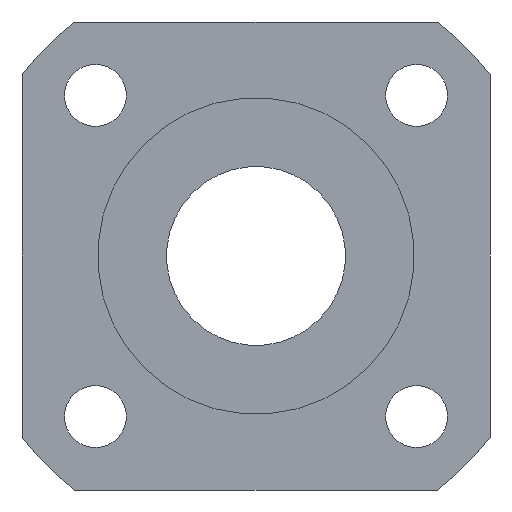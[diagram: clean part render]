
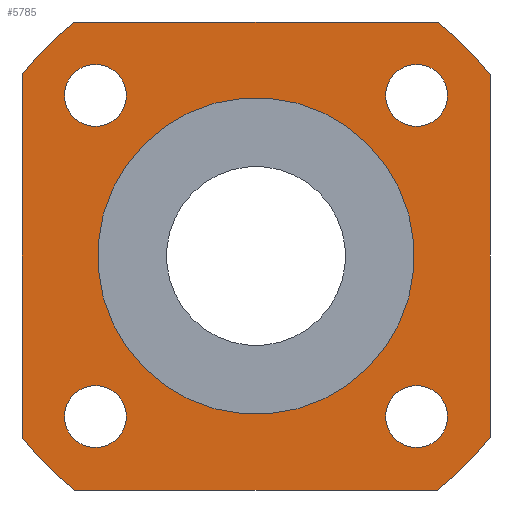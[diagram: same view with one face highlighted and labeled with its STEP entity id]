
A CAD part, left-side view. The second image highlights one B-rep face of the part: STEP entity #5785.
In plain terms, the highlighted planar face has unit normal (-1, 0, 0).
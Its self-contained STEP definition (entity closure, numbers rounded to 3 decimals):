
#109=CIRCLE('',#6137,21.5);
#110=CIRCLE('',#6139,21.5);
#111=CIRCLE('',#6141,21.5);
#121=CIRCLE('',#6156,11.5);
#123=CIRCLE('',#6161,21.5);
#124=CIRCLE('',#6162,2.25);
#125=CIRCLE('',#6163,2.25);
#126=CIRCLE('',#6164,2.25);
#127=CIRCLE('',#6165,2.25);
#338=LINE('',#9177,#1022);
#339=LINE('',#9178,#1023);
#340=LINE('',#9179,#1024);
#341=LINE('',#9183,#1025);
#1022=VECTOR('',#6718,1000.);
#1023=VECTOR('',#6719,1000.);
#1024=VECTOR('',#6720,1000.);
#1025=VECTOR('',#6723,1000.);
#1788=ORIENTED_EDGE('',*,*,#3458,.T.);
#1789=ORIENTED_EDGE('',*,*,#3441,.F.);
#1790=ORIENTED_EDGE('',*,*,#3459,.T.);
#1791=ORIENTED_EDGE('',*,*,#3444,.F.);
#1792=ORIENTED_EDGE('',*,*,#3460,.T.);
#1793=ORIENTED_EDGE('',*,*,#3461,.F.);
#1794=ORIENTED_EDGE('',*,*,#3462,.T.);
#1795=ORIENTED_EDGE('',*,*,#3439,.F.);
#1796=ORIENTED_EDGE('',*,*,#3463,.T.);
#1797=ORIENTED_EDGE('',*,*,#3464,.T.);
#1798=ORIENTED_EDGE('',*,*,#3465,.T.);
#1799=ORIENTED_EDGE('',*,*,#3466,.T.);
#1800=ORIENTED_EDGE('',*,*,#3456,.T.);
#3439=EDGE_CURVE('',#4276,#4277,#109,.T.);
#3441=EDGE_CURVE('',#4278,#4279,#110,.T.);
#3444=EDGE_CURVE('',#4280,#4281,#111,.T.);
#3456=EDGE_CURVE('',#4291,#4291,#121,.T.);
#3458=EDGE_CURVE('',#4276,#4279,#338,.T.);
#3459=EDGE_CURVE('',#4278,#4281,#339,.T.);
#3460=EDGE_CURVE('',#4280,#4293,#340,.T.);
#3461=EDGE_CURVE('',#4294,#4293,#123,.T.);
#3462=EDGE_CURVE('',#4294,#4277,#341,.T.);
#3463=EDGE_CURVE('',#4295,#4295,#124,.T.);
#3464=EDGE_CURVE('',#4296,#4296,#125,.T.);
#3465=EDGE_CURVE('',#4297,#4297,#126,.T.);
#3466=EDGE_CURVE('',#4298,#4298,#127,.T.);
#4276=VERTEX_POINT('',#9131);
#4277=VERTEX_POINT('',#9133);
#4278=VERTEX_POINT('',#9137);
#4279=VERTEX_POINT('',#9138);
#4280=VERTEX_POINT('',#9143);
#4281=VERTEX_POINT('',#9144);
#4291=VERTEX_POINT('',#9171);
#4293=VERTEX_POINT('',#9180);
#4294=VERTEX_POINT('',#9182);
#4295=VERTEX_POINT('',#9185);
#4296=VERTEX_POINT('',#9187);
#4297=VERTEX_POINT('',#9189);
#4298=VERTEX_POINT('',#9191);
#4760=EDGE_LOOP('',(#1788,#1789,#1790,#1791,#1792,#1793,#1794,#1795));
#4761=EDGE_LOOP('',(#1796));
#4762=EDGE_LOOP('',(#1797));
#4763=EDGE_LOOP('',(#1798));
#4764=EDGE_LOOP('',(#1799));
#4765=EDGE_LOOP('',(#1800));
#5168=FACE_BOUND('',#4760,.T.);
#5169=FACE_BOUND('',#4761,.T.);
#5170=FACE_BOUND('',#4762,.T.);
#5171=FACE_BOUND('',#4763,.T.);
#5172=FACE_BOUND('',#4764,.T.);
#5173=FACE_BOUND('',#4765,.T.);
#5521=PLANE('',#6160);
#5785=ADVANCED_FACE('',(#5168,#5169,#5170,#5171,#5172,#5173),#5521,.F.);
#6137=AXIS2_PLACEMENT_3D('',#9132,#6665,#6666);
#6139=AXIS2_PLACEMENT_3D('',#9136,#6670,#6671);
#6141=AXIS2_PLACEMENT_3D('',#9142,#6676,#6677);
#6156=AXIS2_PLACEMENT_3D('',#9170,#6708,#6709);
#6160=AXIS2_PLACEMENT_3D('',#9176,#6716,#6717);
#6161=AXIS2_PLACEMENT_3D('',#9181,#6721,#6722);
#6162=AXIS2_PLACEMENT_3D('',#9184,#6724,#6725);
#6163=AXIS2_PLACEMENT_3D('',#9186,#6726,#6727);
#6164=AXIS2_PLACEMENT_3D('',#9188,#6728,#6729);
#6165=AXIS2_PLACEMENT_3D('',#9190,#6730,#6731);
#6665=DIRECTION('',(1.,0.,0.));
#6666=DIRECTION('',(0.,0.707,-0.707));
#6670=DIRECTION('',(1.,0.,0.));
#6671=DIRECTION('',(0.,0.707,-0.707));
#6676=DIRECTION('',(1.,0.,0.));
#6677=DIRECTION('',(0.,0.707,-0.707));
#6708=DIRECTION('',(1.,0.,0.));
#6709=DIRECTION('',(0.,0.707,-0.707));
#6716=DIRECTION('',(1.,0.,0.));
#6717=DIRECTION('',(0.,0.707,-0.707));
#6718=DIRECTION('',(0.,0.,1.));
#6719=DIRECTION('',(0.,1.,0.));
#6720=DIRECTION('',(0.,0.,-1.));
#6721=DIRECTION('',(1.,0.,0.));
#6722=DIRECTION('',(0.,0.707,-0.707));
#6723=DIRECTION('',(0.,-1.,0.));
#6724=DIRECTION('',(1.,0.,0.));
#6725=DIRECTION('',(0.,0.707,-0.707));
#6726=DIRECTION('',(1.,0.,0.));
#6727=DIRECTION('',(0.,0.707,-0.707));
#6728=DIRECTION('',(1.,0.,0.));
#6729=DIRECTION('',(0.,0.707,-0.707));
#6730=DIRECTION('',(1.,0.,0.));
#6731=DIRECTION('',(0.,0.707,-0.707));
#9131=CARTESIAN_POINT('',(24.5,-17.,-13.162));
#9132=CARTESIAN_POINT('',(24.5,0.,0.));
#9133=CARTESIAN_POINT('',(24.5,-13.162,-17.));
#9136=CARTESIAN_POINT('',(24.5,0.,0.));
#9137=CARTESIAN_POINT('',(24.5,-13.162,17.));
#9138=CARTESIAN_POINT('',(24.5,-17.,13.162));
#9142=CARTESIAN_POINT('',(24.5,0.,0.));
#9143=CARTESIAN_POINT('',(24.5,17.,13.162));
#9144=CARTESIAN_POINT('',(24.5,13.162,17.));
#9170=CARTESIAN_POINT('',(24.5,0.,0.));
#9171=CARTESIAN_POINT('',(24.5,8.132,-8.132));
#9176=CARTESIAN_POINT('',(24.5,0.,0.));
#9177=CARTESIAN_POINT('',(24.5,-17.,17.));
#9178=CARTESIAN_POINT('',(24.5,17.,17.));
#9179=CARTESIAN_POINT('',(24.5,17.,-17.));
#9180=CARTESIAN_POINT('',(24.5,17.,-13.162));
#9181=CARTESIAN_POINT('',(24.5,0.,0.));
#9182=CARTESIAN_POINT('',(24.5,13.162,-17.));
#9183=CARTESIAN_POINT('',(24.5,-17.,-17.));
#9184=CARTESIAN_POINT('',(24.5,11.667,-11.667));
#9185=CARTESIAN_POINT('',(24.5,13.258,-13.258));
#9186=CARTESIAN_POINT('',(24.5,-11.667,-11.667));
#9187=CARTESIAN_POINT('',(24.5,-10.076,-13.258));
#9188=CARTESIAN_POINT('',(24.5,-11.667,11.667));
#9189=CARTESIAN_POINT('',(24.5,-10.076,10.076));
#9190=CARTESIAN_POINT('',(24.5,11.667,11.667));
#9191=CARTESIAN_POINT('',(24.5,13.258,10.076));
